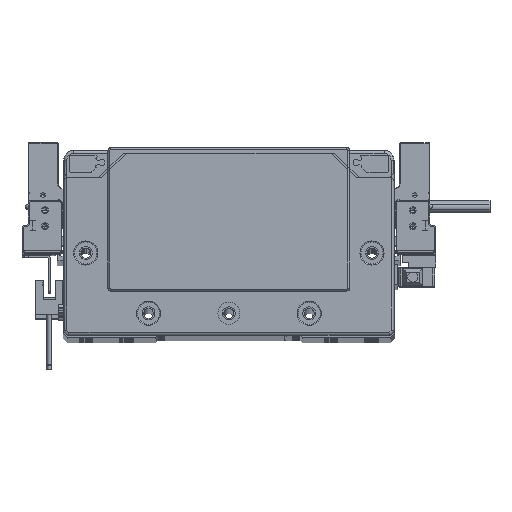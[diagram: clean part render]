
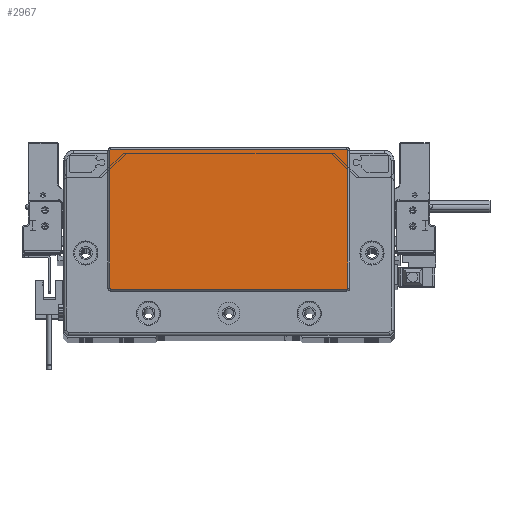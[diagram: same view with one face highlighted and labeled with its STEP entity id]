
A CAD part, top view. The second image highlights one B-rep face of the part: STEP entity #2967.
In plain terms, the highlighted planar face has unit normal (0, 0, 1) as drawn and (0, 0, -1) by its records, which use the part's own axes.
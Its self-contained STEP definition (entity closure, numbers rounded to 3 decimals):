
#2147 = VERTEX_POINT ( 'NONE', #45608 ) ;
#2576 = CARTESIAN_POINT ( 'NONE',  ( 59.25, -23.3, -2. ) ) ;
#2967 = ADVANCED_FACE ( 'NONE', ( #76343 ), #42402, .T. ) ;
#4028 = AXIS2_PLACEMENT_3D ( 'NONE', #28741, #92391, #84037 ) ;
#4412 = EDGE_CURVE ( 'NONE', #74513, #114447, #98778, .T. ) ;
#8320 = VECTOR ( 'NONE', #76372, 1000. ) ;
#10440 = VECTOR ( 'NONE', #47077, 1000. ) ;
#11895 = CARTESIAN_POINT ( 'NONE',  ( 58.75, 45.8, -2. ) ) ;
#13753 = CARTESIAN_POINT ( 'NONE',  ( -58.75, 45.3, -2. ) ) ;
#16699 = DIRECTION ( 'NONE',  ( -1., 0., 0. ) ) ;
#18905 = EDGE_CURVE ( 'NONE', #116078, #74513, #69232, .T. ) ;
#21856 = CARTESIAN_POINT ( 'NONE',  ( -59.25, 45.3, -2. ) ) ;
#23231 = CARTESIAN_POINT ( 'NONE',  ( 59.25, -23.3, -2. ) ) ;
#23311 = ORIENTED_EDGE ( 'NONE', *, *, #25290, .T. ) ;
#24677 = VERTEX_POINT ( 'NONE', #78353 ) ;
#25265 = EDGE_CURVE ( 'NONE', #24677, #116078, #41985, .T. ) ;
#25290 = EDGE_CURVE ( 'NONE', #2147, #77764, #110805, .T. ) ;
#28741 = CARTESIAN_POINT ( 'NONE',  ( -58.75, -23.3, -2. ) ) ;
#30516 = CARTESIAN_POINT ( 'NONE',  ( -58.75, -23.8, -2. ) ) ;
#32770 = CARTESIAN_POINT ( 'NONE',  ( 58.75, 45.3, -2. ) ) ;
#33027 = VERTEX_POINT ( 'NONE', #11895 ) ;
#39937 = DIRECTION ( 'NONE',  ( 0., 0., -1. ) ) ;
#41985 = CIRCLE ( 'NONE', #4028, 0.5 ) ;
#42402 = PLANE ( 'NONE',  #115871 ) ;
#45608 = CARTESIAN_POINT ( 'NONE',  ( 59.25, 45.3, -2. ) ) ;
#46530 = AXIS2_PLACEMENT_3D ( 'NONE', #32770, #115454, #16699 ) ;
#47077 = DIRECTION ( 'NONE',  ( 1., 0., 0. ) ) ;
#47489 = CARTESIAN_POINT ( 'NONE',  ( 58.75, -23.8, -2. ) ) ;
#51353 = DIRECTION ( 'NONE',  ( 0., 0., -1. ) ) ;
#53683 = EDGE_CURVE ( 'NONE', #85507, #24677, #112001, .T. ) ;
#55008 = EDGE_CURVE ( 'NONE', #114447, #33027, #95959, .T. ) ;
#56063 = DIRECTION ( 'NONE',  ( -1., 0., 0. ) ) ;
#56426 = EDGE_CURVE ( 'NONE', #33027, #2147, #74981, .T. ) ;
#57882 = DIRECTION ( 'NONE',  ( -1., 0., 0. ) ) ;
#62026 = ORIENTED_EDGE ( 'NONE', *, *, #53683, .T. ) ;
#64500 = ORIENTED_EDGE ( 'NONE', *, *, #4412, .T. ) ;
#65406 = EDGE_CURVE ( 'NONE', #77764, #85507, #81059, .T. ) ;
#66773 = VECTOR ( 'NONE', #101912, 1000. ) ;
#69232 = LINE ( 'NONE', #87080, #8320 ) ;
#69529 = CARTESIAN_POINT ( 'NONE',  ( -59.25, -23.3, -2. ) ) ;
#71493 = ORIENTED_EDGE ( 'NONE', *, *, #18905, .T. ) ;
#74513 = VERTEX_POINT ( 'NONE', #21856 ) ;
#74981 = CIRCLE ( 'NONE', #46530, 0.5 ) ;
#76230 = DIRECTION ( 'NONE',  ( 0., 0., -1. ) ) ;
#76343 = FACE_OUTER_BOUND ( 'NONE', #92756, .T. ) ;
#76372 = DIRECTION ( 'NONE',  ( 0., 1., 0. ) ) ;
#77764 = VERTEX_POINT ( 'NONE', #23231 ) ;
#77978 = CARTESIAN_POINT ( 'NONE',  ( -58.75, 45.8, -2. ) ) ;
#78079 = ORIENTED_EDGE ( 'NONE', *, *, #65406, .T. ) ;
#78117 = CARTESIAN_POINT ( 'NONE',  ( 0., 0., -2. ) ) ;
#78353 = CARTESIAN_POINT ( 'NONE',  ( -58.75, -23.8, -2. ) ) ;
#81023 = CARTESIAN_POINT ( 'NONE',  ( 58.75, 45.8, -2. ) ) ;
#81059 = CIRCLE ( 'NONE', #96268, 0.5 ) ;
#82277 = ORIENTED_EDGE ( 'NONE', *, *, #25265, .T. ) ;
#84037 = DIRECTION ( 'NONE',  ( -1., 0., 0. ) ) ;
#85159 = CARTESIAN_POINT ( 'NONE',  ( 58.75, -23.3, -2. ) ) ;
#85507 = VERTEX_POINT ( 'NONE', #47489 ) ;
#86595 = ORIENTED_EDGE ( 'NONE', *, *, #55008, .T. ) ;
#87080 = CARTESIAN_POINT ( 'NONE',  ( -59.25, 45.3, -2. ) ) ;
#92391 = DIRECTION ( 'NONE',  ( 0., 0., -1. ) ) ;
#92756 = EDGE_LOOP ( 'NONE', ( #23311, #78079, #62026, #82277, #71493, #64500, #86595, #116572 ) ) ;
#95376 = DIRECTION ( 'NONE',  ( -1., 0., 0. ) ) ;
#95959 = LINE ( 'NONE', #81023, #10440 ) ;
#96268 = AXIS2_PLACEMENT_3D ( 'NONE', #85159, #39937, #56063 ) ;
#98778 = CIRCLE ( 'NONE', #106361, 0.5 ) ;
#101912 = DIRECTION ( 'NONE',  ( 0., -1., 0. ) ) ;
#105161 = VECTOR ( 'NONE', #57882, 1000. ) ;
#106361 = AXIS2_PLACEMENT_3D ( 'NONE', #13753, #76230, #112484 ) ;
#110805 = LINE ( 'NONE', #2576, #66773 ) ;
#112001 = LINE ( 'NONE', #30516, #105161 ) ;
#112484 = DIRECTION ( 'NONE',  ( -1., 0., 0. ) ) ;
#114447 = VERTEX_POINT ( 'NONE', #77978 ) ;
#115454 = DIRECTION ( 'NONE',  ( 0., 0., -1. ) ) ;
#115871 = AXIS2_PLACEMENT_3D ( 'NONE', #78117, #51353, #95376 ) ;
#116078 = VERTEX_POINT ( 'NONE', #69529 ) ;
#116572 = ORIENTED_EDGE ( 'NONE', *, *, #56426, .T. ) ;
